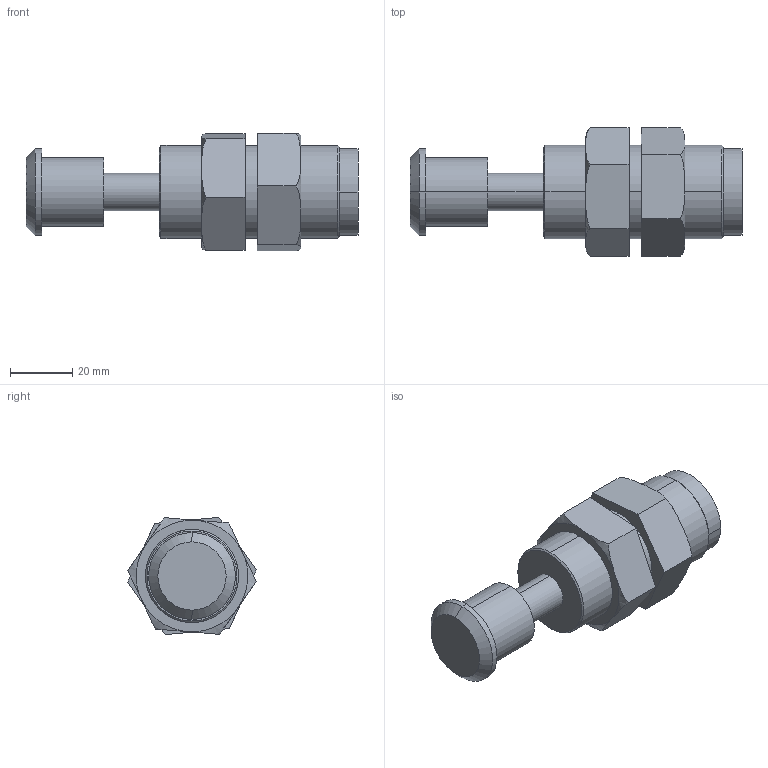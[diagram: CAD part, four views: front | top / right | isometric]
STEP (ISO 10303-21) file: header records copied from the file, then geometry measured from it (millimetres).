
FILE_DESCRIPTION (( 'STEP AP203' ), '1' );
FILE_NAME ('FSAE-3020.STEP', '2016-03-17T07:52:41', ( 'Sam Lin' ), ( '' ), 'SwSTEP 2.0', 'SolidWorks 2013', '' );
FILE_SCHEMA (( 'CONFIG_CONTROL_DESIGN' ));
Length unit declared in the file: metre
Products named in the file (3): M30x1.5-14mm_1; FSAE-3020; FSAE-3020_1
Assembly tree (3 placements, depth 2):
  FSAE-3020
    FSAE-3020_1
    M30x1.5-14mm_1  x2
Bounding box: 107 x 41.43 x 37.78 mm (x, y, z)
Volume: 68595.5 mm3; surface area: 18411.4 mm2
Topology: 3 solids, 3 shells, 54 faces, 116 edges, 72 vertices
Faces by surface type: plane 22, cylinder 14, bspline 12, cone 6
Entity records: 1555 total; most frequent: CARTESIAN_POINT 438, DIRECTION 170, ORIENTED_EDGE 160, EDGE_CURVE 80, AXIS2_PLACEMENT_3D 70, VERTEX_POINT 50, EDGE_LOOP 44, FACE_OUTER_BOUND 38
